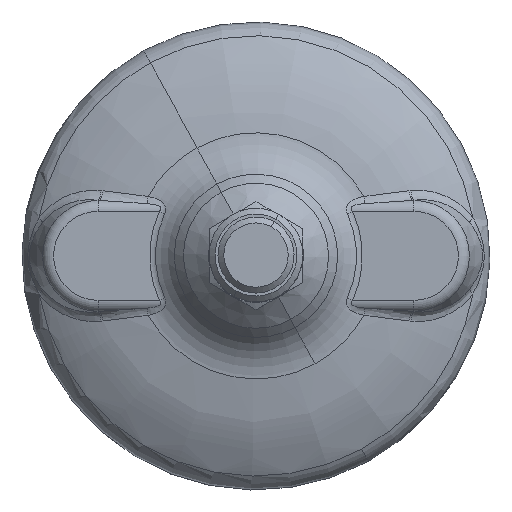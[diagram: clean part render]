
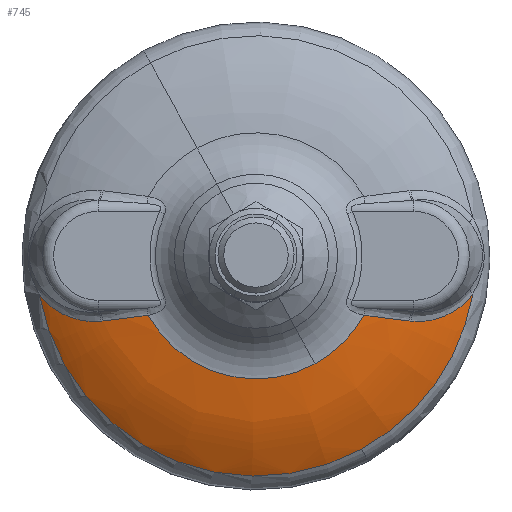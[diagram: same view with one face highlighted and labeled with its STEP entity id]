
A CAD part, top view. The second image highlights one B-rep face of the part: STEP entity #745.
In plain terms, the highlighted face is a revolution surface.
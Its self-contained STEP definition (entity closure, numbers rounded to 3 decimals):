
#211=CARTESIAN_POINT('Vertex',(37.066,-6.513,9.25)) ;
#365=CARTESIAN_POINT('Axis2P3D Location',(0.,0.,9.25)) ;
#369=CARTESIAN_POINT('Vertex',(18.043,-33.027,9.25)) ;
#505=CARTESIAN_POINT('Vertex',(26.441,-11.158,13.365)) ;
#509=CARTESIAN_POINT('Control Point',(26.441,-11.158,13.365)) ;
#510=CARTESIAN_POINT('Control Point',(27.14,-11.231,13.151)) ;
#511=CARTESIAN_POINT('Control Point',(27.848,-11.251,12.924)) ;
#512=CARTESIAN_POINT('Control Point',(28.562,-11.218,12.685)) ;
#513=CARTESIAN_POINT('Control Point',(29.84,-11.062,12.239)) ;
#514=CARTESIAN_POINT('Control Point',(31.115,-10.724,11.764)) ;
#515=CARTESIAN_POINT('Control Point',(31.674,-10.539,11.55)) ;
#516=CARTESIAN_POINT('Control Point',(32.73,-10.113,11.135)) ;
#517=CARTESIAN_POINT('Control Point',(33.761,-9.542,10.71)) ;
#518=CARTESIAN_POINT('Control Point',(34.245,-9.235,10.506)) ;
#519=CARTESIAN_POINT('Control Point',(35.132,-8.592,10.126)) ;
#520=CARTESIAN_POINT('Control Point',(35.974,-7.81,9.751)) ;
#521=CARTESIAN_POINT('Control Point',(36.354,-7.413,9.579)) ;
#522=CARTESIAN_POINT('Control Point',(36.72,-6.981,9.411)) ;
#523=CARTESIAN_POINT('Control Point',(37.066,-6.513,9.25)) ;
#631=CARTESIAN_POINT('Control Point',(-18.043,33.027,9.25)) ;
#632=CARTESIAN_POINT('Control Point',(-16.239,29.725,11.582)) ;
#633=CARTESIAN_POINT('Control Point',(-14.27,26.12,13.36)) ;
#634=CARTESIAN_POINT('Control Point',(-12.195,22.323,14.504)) ;
#635=CARTESIAN_POINT('Control Point',(-10.086,18.462,15.)) ;
#636=CARTESIAN_POINT('Axis1P Location',(0.,0.,-24.749)) ;
#670=CARTESIAN_POINT('Axis2P3D Location',(0.,0.,9.25)) ;
#674=CARTESIAN_POINT('Vertex',(-37.066,-6.513,9.25)) ;
#678=CARTESIAN_POINT('Control Point',(26.441,-11.158,13.365)) ;
#679=CARTESIAN_POINT('Control Point',(26.339,-11.147,13.396)) ;
#680=CARTESIAN_POINT('Control Point',(26.237,-11.137,13.427)) ;
#681=CARTESIAN_POINT('Control Point',(26.134,-11.126,13.458)) ;
#682=CARTESIAN_POINT('Vertex',(26.134,-11.126,13.458)) ;
#686=CARTESIAN_POINT('Control Point',(18.427,-10.151,15.)) ;
#687=CARTESIAN_POINT('Control Point',(20.381,-10.355,14.796)) ;
#688=CARTESIAN_POINT('Control Point',(22.311,-10.651,14.474)) ;
#689=CARTESIAN_POINT('Control Point',(24.228,-10.935,14.025)) ;
#690=CARTESIAN_POINT('Control Point',(26.134,-11.126,13.458)) ;
#691=CARTESIAN_POINT('Vertex',(18.427,-10.151,15.)) ;
#694=CARTESIAN_POINT('Axis2P3D Location',(0.,0.,15.)) ;
#698=CARTESIAN_POINT('Vertex',(10.086,-18.462,15.)) ;
#701=CARTESIAN_POINT('Axis2P3D Location',(0.,0.,15.)) ;
#705=CARTESIAN_POINT('Vertex',(-18.427,-10.151,15.)) ;
#709=CARTESIAN_POINT('Control Point',(-26.134,-11.126,13.458)) ;
#710=CARTESIAN_POINT('Control Point',(-24.229,-10.935,14.025)) ;
#711=CARTESIAN_POINT('Control Point',(-22.314,-10.652,14.473)) ;
#712=CARTESIAN_POINT('Control Point',(-20.38,-10.355,14.796)) ;
#713=CARTESIAN_POINT('Control Point',(-18.427,-10.151,15.)) ;
#714=CARTESIAN_POINT('Vertex',(-26.134,-11.126,13.458)) ;
#718=CARTESIAN_POINT('Control Point',(-26.441,-11.158,13.365)) ;
#719=CARTESIAN_POINT('Control Point',(-26.339,-11.147,13.396)) ;
#720=CARTESIAN_POINT('Control Point',(-26.237,-11.137,13.427)) ;
#721=CARTESIAN_POINT('Control Point',(-26.134,-11.126,13.458)) ;
#722=CARTESIAN_POINT('Vertex',(-26.441,-11.158,13.365)) ;
#726=CARTESIAN_POINT('Control Point',(-37.066,-6.513,9.25)) ;
#727=CARTESIAN_POINT('Control Point',(-35.329,-8.863,10.059)) ;
#728=CARTESIAN_POINT('Control Point',(-33.126,-10.273,11.025)) ;
#729=CARTESIAN_POINT('Control Point',(-30.9,-11.105,11.896)) ;
#730=CARTESIAN_POINT('Control Point',(-28.624,-11.385,12.697)) ;
#731=CARTESIAN_POINT('Control Point',(-26.441,-11.158,13.365)) ;
#366=DIRECTION('Axis2P3D Direction',(0.,0.,1.)) ;
#637=DIRECTION('Axis1P Direction',(-0.,-0.,-1.)) ;
#671=DIRECTION('Axis2P3D Direction',(0.,0.,1.)) ;
#695=DIRECTION('Axis2P3D Direction',(0.,0.,1.)) ;
#702=DIRECTION('Axis2P3D Direction',(0.,0.,1.)) ;
#367=AXIS2_PLACEMENT_3D('Circle Axis2P3D',#365,#366,$) ;
#672=AXIS2_PLACEMENT_3D('Circle Axis2P3D',#670,#671,$) ;
#696=AXIS2_PLACEMENT_3D('Circle Axis2P3D',#694,#695,$) ;
#703=AXIS2_PLACEMENT_3D('Circle Axis2P3D',#701,#702,$) ;
#734=ORIENTED_EDGE('',*,*,#676,.T.) ;
#735=ORIENTED_EDGE('',*,*,#371,.T.) ;
#736=ORIENTED_EDGE('',*,*,#524,.T.) ;
#737=ORIENTED_EDGE('',*,*,#684,.T.) ;
#738=ORIENTED_EDGE('',*,*,#693,.T.) ;
#739=ORIENTED_EDGE('',*,*,#700,.F.) ;
#740=ORIENTED_EDGE('',*,*,#707,.F.) ;
#741=ORIENTED_EDGE('',*,*,#716,.T.) ;
#742=ORIENTED_EDGE('',*,*,#724,.T.) ;
#743=ORIENTED_EDGE('',*,*,#732,.T.) ;
#745=ADVANCED_FACE('PartBody',(#744),#639,.F.) ;
#638=AXIS1_PLACEMENT('Revolution Surface Axis1P',#636,#637) ;
#508=B_SPLINE_CURVE_WITH_KNOTS('',5,(#509,#510,#511,#512,#513,#514,#515,#516,#517,#518,#519,#520,#521,#522,#523),.UNSPECIFIED.,.F.,.U.,(6,3,3,3,6),(16.532,21.285,25.021,28.41,31.368),.UNSPECIFIED.) ;
#630=B_SPLINE_CURVE_WITH_KNOTS('',4,(#631,#632,#633,#634,#635),.UNSPECIFIED.,.F.,.U.,(5,5),(40.636,58.345),.UNSPECIFIED.) ;
#677=B_SPLINE_CURVE_WITH_KNOTS('',3,(#678,#679,#680,#681),.UNSPECIFIED.,.F.,.U.,(4,4),(19.617,20.077),.UNSPECIFIED.) ;
#685=B_SPLINE_CURVE_WITH_KNOTS('',4,(#686,#687,#688,#689,#690),.UNSPECIFIED.,.F.,.U.,(5,5),(6.921,18.133),.UNSPECIFIED.) ;
#708=B_SPLINE_CURVE_WITH_KNOTS('',4,(#709,#710,#711,#712,#713),.UNSPECIFIED.,.F.,.U.,(5,5),(20.75,31.959),.UNSPECIFIED.) ;
#717=B_SPLINE_CURVE_WITH_KNOTS('',3,(#718,#719,#720,#721),.UNSPECIFIED.,.F.,.U.,(4,4),(19.617,20.078),.UNSPECIFIED.) ;
#725=B_SPLINE_CURVE_WITH_KNOTS('',5,(#726,#727,#728,#729,#730,#731),.UNSPECIFIED.,.F.,.U.,(6,6),(43.774,58.613),.UNSPECIFIED.) ;
#368=CIRCLE('generated circle',#367,37.634) ;
#673=CIRCLE('generated circle',#672,37.634) ;
#697=CIRCLE('generated circle',#696,21.038) ;
#704=CIRCLE('generated circle',#703,21.038) ;
#371=EDGE_CURVE('',#370,#212,#368,.T.) ;
#524=EDGE_CURVE('',#212,#506,#508,.F.) ;
#676=EDGE_CURVE('',#675,#370,#673,.T.) ;
#684=EDGE_CURVE('',#506,#683,#677,.T.) ;
#693=EDGE_CURVE('',#683,#692,#685,.F.) ;
#700=EDGE_CURVE('',#699,#692,#697,.T.) ;
#707=EDGE_CURVE('',#706,#699,#704,.T.) ;
#716=EDGE_CURVE('',#706,#715,#708,.F.) ;
#724=EDGE_CURVE('',#715,#723,#717,.F.) ;
#732=EDGE_CURVE('',#723,#675,#725,.F.) ;
#733=EDGE_LOOP('',(#734,#735,#736,#737,#738,#739,#740,#741,#742,#743)) ;
#744=FACE_OUTER_BOUND('',#733,.T.) ;
#639=SURFACE_OF_REVOLUTION('homeo Torus',#630,#638) ;
#212=VERTEX_POINT('',#211) ;
#370=VERTEX_POINT('',#369) ;
#506=VERTEX_POINT('',#505) ;
#675=VERTEX_POINT('',#674) ;
#683=VERTEX_POINT('',#682) ;
#692=VERTEX_POINT('',#691) ;
#699=VERTEX_POINT('',#698) ;
#706=VERTEX_POINT('',#705) ;
#715=VERTEX_POINT('',#714) ;
#723=VERTEX_POINT('',#722) ;
